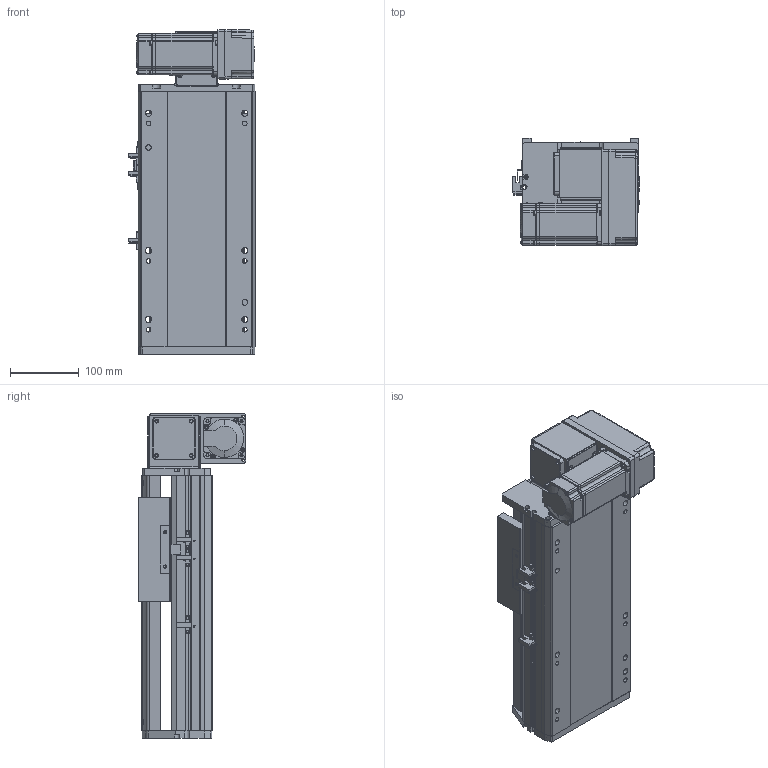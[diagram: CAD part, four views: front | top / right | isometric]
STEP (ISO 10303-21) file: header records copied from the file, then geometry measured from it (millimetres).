
FILE_DESCRIPTION (( 'STEP AP214' ), '1' );
FILE_NAME ('RTB17S-XX-100-RM-M40-C4.STEP', '2025-12-11T08:08:33', ( '' ), ( '' ), 'SwSTEP 2.0', 'SolidWorks 2018', '' );
FILE_SCHEMA (( 'AUTOMOTIVE_DESIGN' ));
Length unit declared in the file: millimetre
Products named in the file (14): RTB14-L-018P^RTB17S-RM-々湍釱蚾饜-400W_RTB17S-XX-XX-RM-M40-C4; RTB14-L-017P^RTB17S-RM-々湍釱蚾饜-400W_RTB17S-XX-XX-RM-M40-C4; RTB17S-RM-々湍釱蚾饜-400W^RTB17S-XX-XX-RM-M40-C4; RTB17S-L-001耜醱啣^RTB17S-XX-XX-RM-M40-C4; RTB17S-XX-100-RM-M40-C4; OMRON EE-SX672 传感器^RTB17S-XX-XX-RM-M40-C4; RTB14-L-005P--轴承塑胶压盖^RTB17S-RM-皮带座装配-400W_RTB17S-XX-XX-RM-M40-C4; 400W侜督萇儂^RTB17S-XX-XX-RM-M40-C4; RTB17S-L-007奻裔^RTB17S-XX-XX-RM-M40-C4; RTH13-BL-012覜茼え俋离^RTB17S-XX-XX-RM-M40-C4; RTB14-L-008-M20--萇儂啣^RTB17S-RM-々湍釱蚾饜-400W_RTB17S-XX-XX-RM-M40-C4; RTB17S-L-004佪裝蹟譫蟀諉釱^RTB17S-XX-XX-RM-M40-C4; RTB17S-L-014-T20--々湍釱^RTB17S-RM-々湍釱蚾饜-400W_RTB17S-XX-XX-RM-M40-C4; RTB17-R-011菁釱^RTB17S-XX-XX-RM-M40-C4
Assembly tree (16 placements, depth 3):
  RTB17S-XX-100-RM-M40-C4
    RTB17-R-011菁釱^RTB17S-XX-XX-RM-M40-C4
    RTB17S-L-007奻裔^RTB17S-XX-XX-RM-M40-C4
    OMRON EE-SX672 传感器^RTB17S-XX-XX-RM-M40-C4  x3
    RTB17S-L-001耜醱啣^RTB17S-XX-XX-RM-M40-C4
    400W侜督萇儂^RTB17S-XX-XX-RM-M40-C4
    RTB17S-L-004佪裝蹟譫蟀諉釱^RTB17S-XX-XX-RM-M40-C4
    RTH13-BL-012覜茼え俋离^RTB17S-XX-XX-RM-M40-C4
    RTB17S-RM-々湍釱蚾饜-400W^RTB17S-XX-XX-RM-M40-C4
      RTB17S-L-014-T20--々湍釱^RTB17S-RM-々湍釱蚾饜-400W_RTB17S-XX-XX-RM-M40-C4
      RTB14-L-005P--轴承塑胶压盖^RTB17S-RM-皮带座装配-400W_RTB17S-XX-XX-RM-M40-C4
      RTB14-L-008-M20--萇儂啣^RTB17S-RM-々湍釱蚾饜-400W_RTB17S-XX-XX-RM-M40-C4
      RTB14-L-017P^RTB17S-RM-々湍釱蚾饜-400W_RTB17S-XX-XX-RM-M40-C4  x2
      RTB14-L-018P^RTB17S-RM-々湍釱蚾饜-400W_RTB17S-XX-XX-RM-M40-C4
Bounding box: 183.5 x 156.5 x 472.5 mm (x, y, z)
Volume: 5032331.6 mm3; surface area: 698601.9 mm2
Topology: 15 solids, 15 shells, 2141 faces, 5871 edges, 3825 vertices
Faces by surface type: plane 1060, cylinder 633, bspline 301, cone 139, torus 8
Entity records: 59561 total; most frequent: CARTESIAN_POINT 16476, ORIENTED_EDGE 8586, DIRECTION 8036, EDGE_CURVE 4293, VERTEX_POINT 2813, AXIS2_PLACEMENT_3D 2743, LINE 2550, VECTOR 2550
